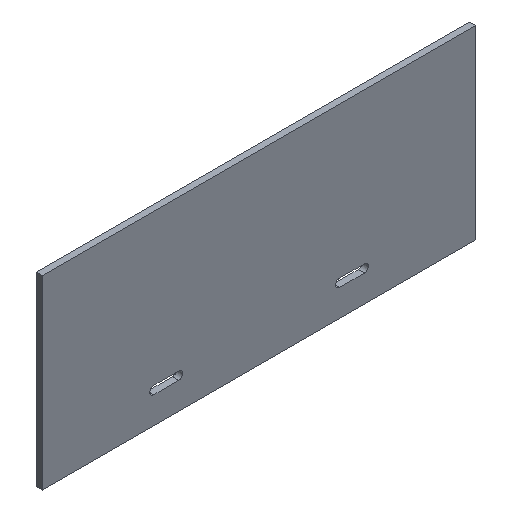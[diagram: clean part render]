
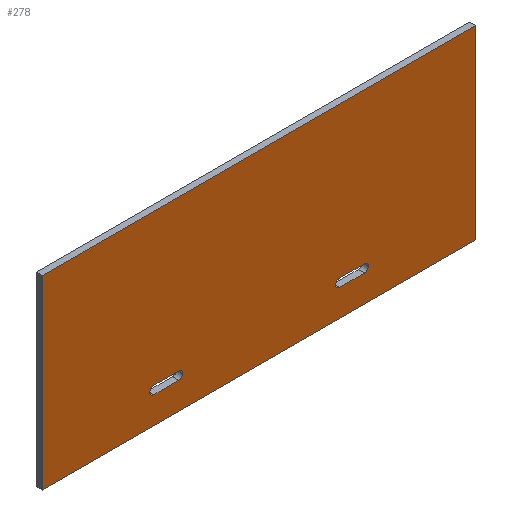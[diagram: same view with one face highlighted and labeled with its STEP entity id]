
A CAD part, isometric view. The second image highlights one B-rep face of the part: STEP entity #278.
In plain terms, the highlighted planar face has unit normal (0, -1, 0).
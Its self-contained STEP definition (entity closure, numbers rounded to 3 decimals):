
#28=PLANE('',#313);
#32=LINE('',#400,#60);
#36=LINE('',#412,#64);
#40=LINE('',#424,#68);
#44=LINE('',#436,#72);
#46=LINE('',#439,#74);
#50=LINE('',#448,#78);
#53=LINE('',#454,#81);
#56=LINE('',#460,#84);
#60=VECTOR('',#327,1000.);
#64=VECTOR('',#339,1000.);
#68=VECTOR('',#351,1000.);
#72=VECTOR('',#363,1000.);
#74=VECTOR('',#367,1000.);
#78=VECTOR('',#373,1000.);
#81=VECTOR('',#378,1000.);
#84=VECTOR('',#383,1000.);
#134=ORIENTED_EDGE('',*,*,#192,.T.);
#135=ORIENTED_EDGE('',*,*,#189,.T.);
#136=ORIENTED_EDGE('',*,*,#186,.T.);
#137=ORIENTED_EDGE('',*,*,#182,.T.);
#138=ORIENTED_EDGE('',*,*,#180,.T.);
#139=ORIENTED_EDGE('',*,*,#177,.T.);
#140=ORIENTED_EDGE('',*,*,#174,.T.);
#141=ORIENTED_EDGE('',*,*,#170,.T.);
#142=ORIENTED_EDGE('',*,*,#168,.T.);
#143=ORIENTED_EDGE('',*,*,#158,.T.);
#144=ORIENTED_EDGE('',*,*,#162,.T.);
#145=ORIENTED_EDGE('',*,*,#165,.T.);
#158=EDGE_CURVE('',#194,#195,#218,.F.);
#162=EDGE_CURVE('',#195,#198,#32,.T.);
#165=EDGE_CURVE('',#198,#200,#220,.F.);
#168=EDGE_CURVE('',#200,#194,#36,.T.);
#170=EDGE_CURVE('',#202,#203,#222,.T.);
#174=EDGE_CURVE('',#206,#202,#40,.T.);
#177=EDGE_CURVE('',#208,#206,#224,.T.);
#180=EDGE_CURVE('',#203,#208,#44,.T.);
#182=EDGE_CURVE('',#210,#211,#46,.T.);
#186=EDGE_CURVE('',#214,#210,#50,.T.);
#189=EDGE_CURVE('',#216,#214,#53,.T.);
#192=EDGE_CURVE('',#211,#216,#56,.T.);
#194=VERTEX_POINT('',#392);
#195=VERTEX_POINT('',#393);
#198=VERTEX_POINT('',#401);
#200=VERTEX_POINT('',#407);
#202=VERTEX_POINT('',#416);
#203=VERTEX_POINT('',#417);
#206=VERTEX_POINT('',#425);
#208=VERTEX_POINT('',#431);
#210=VERTEX_POINT('',#440);
#211=VERTEX_POINT('',#441);
#214=VERTEX_POINT('',#449);
#216=VERTEX_POINT('',#455);
#218=CIRCLE('',#294,3.25);
#220=CIRCLE('',#298,3.25);
#222=CIRCLE('',#302,3.25);
#224=CIRCLE('',#306,3.25);
#238=EDGE_LOOP('',(#134,#135,#136,#137));
#239=EDGE_LOOP('',(#138,#139,#140,#141));
#240=EDGE_LOOP('',(#142,#143,#144,#145));
#256=FACE_BOUND('',#238,.T.);
#257=FACE_BOUND('',#239,.T.);
#258=FACE_BOUND('',#240,.T.);
#278=ADVANCED_FACE('',(#256,#257,#258),#28,.T.);
#294=AXIS2_PLACEMENT_3D('',#391,#319,#320);
#298=AXIS2_PLACEMENT_3D('',#406,#332,#333);
#302=AXIS2_PLACEMENT_3D('',#415,#343,#344);
#306=AXIS2_PLACEMENT_3D('',#430,#356,#357);
#313=AXIS2_PLACEMENT_3D('',#462,#385,#386);
#319=DIRECTION('',(0.,-1.,0.));
#320=DIRECTION('',(0.,0.,-1.));
#327=DIRECTION('',(-1.,0.,0.));
#332=DIRECTION('',(0.,-1.,0.));
#333=DIRECTION('',(0.,0.,-1.));
#339=DIRECTION('',(1.,0.,0.));
#343=DIRECTION('',(0.,1.,0.));
#344=DIRECTION('',(1.,0.,0.));
#351=DIRECTION('',(-1.,0.,0.));
#356=DIRECTION('',(0.,1.,0.));
#357=DIRECTION('',(-1.,0.,0.));
#363=DIRECTION('',(1.,0.,0.));
#367=DIRECTION('',(-1.,0.,0.));
#373=DIRECTION('',(0.,0.,1.));
#378=DIRECTION('',(1.,0.,0.));
#383=DIRECTION('',(0.,0.,-1.));
#385=DIRECTION('',(0.,-1.,0.));
#386=DIRECTION('',(0.,0.,-1.));
#391=CARTESIAN_POINT('',(-334.57,0.,-14.126));
#392=CARTESIAN_POINT('',(-334.57,0.,-10.876));
#393=CARTESIAN_POINT('',(-334.57,0.,-17.376));
#400=CARTESIAN_POINT('',(0.,0.,-17.376));
#401=CARTESIAN_POINT('',(-354.57,0.,-17.376));
#406=CARTESIAN_POINT('',(-354.57,0.,-14.126));
#407=CARTESIAN_POINT('',(-354.57,0.,-10.876));
#412=CARTESIAN_POINT('',(0.,0.,-10.876));
#415=CARTESIAN_POINT('',(-204.57,0.,-14.126));
#416=CARTESIAN_POINT('',(-204.57,0.,-17.376));
#417=CARTESIAN_POINT('',(-204.57,0.,-10.876));
#424=CARTESIAN_POINT('',(-184.57,0.,-17.376));
#425=CARTESIAN_POINT('',(-184.57,0.,-17.376));
#430=CARTESIAN_POINT('',(-184.57,0.,-14.126));
#431=CARTESIAN_POINT('',(-184.57,0.,-10.876));
#436=CARTESIAN_POINT('',(-204.57,0.,-10.876));
#439=CARTESIAN_POINT('',(-94.57,0.,110.874));
#440=CARTESIAN_POINT('',(-94.57,0.,110.874));
#441=CARTESIAN_POINT('',(-444.57,0.,110.874));
#448=CARTESIAN_POINT('',(-94.57,0.,-39.126));
#449=CARTESIAN_POINT('',(-94.57,0.,-39.126));
#454=CARTESIAN_POINT('',(-294.57,0.,-39.126));
#455=CARTESIAN_POINT('',(-444.57,0.,-39.126));
#460=CARTESIAN_POINT('',(-444.57,0.,110.874));
#462=CARTESIAN_POINT('',(0.,0.,0.));
